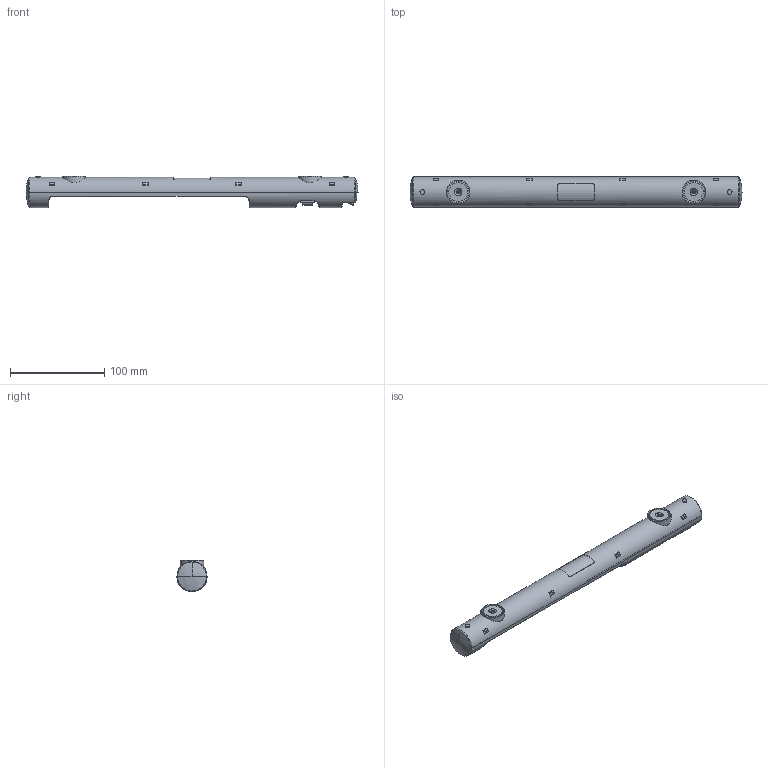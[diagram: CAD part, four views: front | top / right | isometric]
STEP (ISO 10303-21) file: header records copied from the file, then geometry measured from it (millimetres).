
FILE_DESCRIPTION (( 'STEP AP214' ), '1' );
FILE_NAME ('LA 5 LED M.STEP', '2022-12-21T10:16:59', ( '' ), ( '' ), 'SwSTEP 2.0', 'SolidWorks 2018', '' );
FILE_SCHEMA (( 'AUTOMOTIVE_DESIGN' ));
Length unit declared in the file: millimetre
Products named in the file (1): LA 5 LED M
Bounding box: 352.2 x 32 x 33 mm (x, y, z)
Volume: 75187.9 mm3; surface area: 86090.8 mm2
Topology: 6 solids, 6 shells, 2153 faces, 6023 edges, 3986 vertices
Faces by surface type: plane 1851, cylinder 237, bspline 24, cone 20, sphere 18, torus 3
Entity records: 72725 total; most frequent: CARTESIAN_POINT 15593, ORIENTED_EDGE 12038, DIRECTION 11764, EDGE_CURVE 6019, VECTOR 4242, LINE 4242, VERTEX_POINT 3986, AXIS2_PLACEMENT_3D 3761
